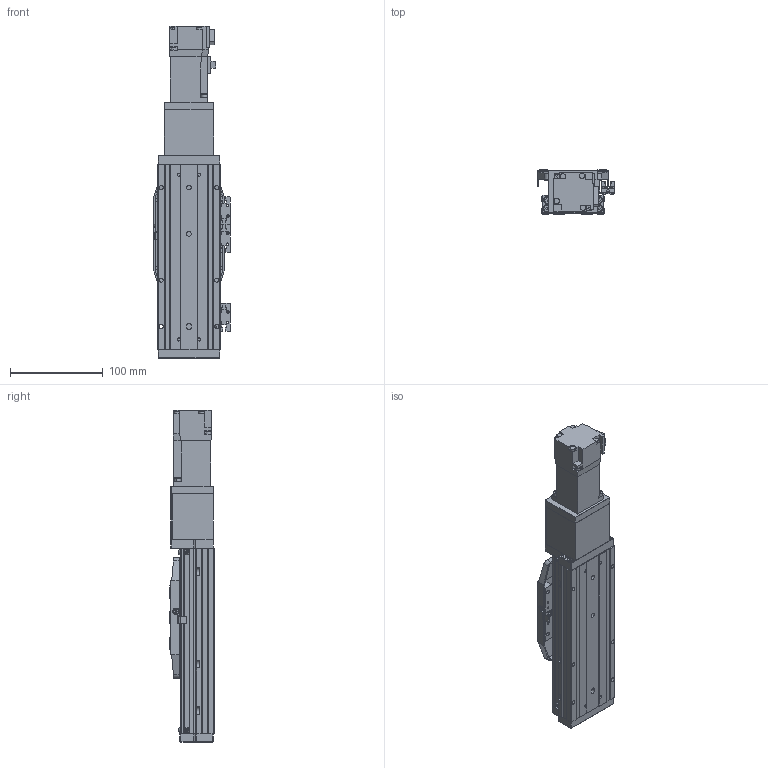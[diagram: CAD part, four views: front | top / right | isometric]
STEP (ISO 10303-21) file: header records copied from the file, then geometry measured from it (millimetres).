
FILE_DESCRIPTION (( 'STEP AP214' ), '1' );
FILE_NAME ('CTHA60-50-BC-M10-C4L.step', '2022-03-19T06:10:27', ( '微软用户' ), ( '微软中国' ), 'SwSTEP 2.0', 'SolidWorks 2020', '' );
FILE_SCHEMA (( 'AUTOMOTIVE_DESIGN' ));
Length unit declared in the file: millimetre
Products named in the file (19): GB¨uT 70.2-M3¡Á6_M3¡Á6; CTHA60-021; GBT 70.1-M3℅6; CTHA60-027; CTHA60-004; HG-KR13（三菱）; CTHA60-50-BC-M10-C4L; EE_SX911P_R; GBT 70.1-M4×16; GBT 70.3-M3℅6; CTHA60-013; CTHA60-002; CTHA60-005; CTHA60-017; CTHA60-031; GBT77-2000 M3×3; CTHA60-016; CTHA60-001_200; CTHA60-006
Assembly tree (57 placements, depth 2):
  CTHA60-50-BC-M10-C4L
    CTHA60-001_200
    CTHA60-004
    CTHA60-005
    GB¨uT 70.2-M3¡Á6_M3¡Á6  x10
    EE_SX911P_R  x3
    CTHA60-017  x3
    CTHA60-021  x2
    GBT 70.1-M4×16  x10
    GBT77-2000 M3×3  x6
    GBT 70.1-M3℅6  x6
    GBT 70.3-M3℅6  x6
    CTHA60-016  x2
    CTHA60-027
    CTHA60-013
    CTHA60-006
    HG-KR13（三菱）
    CTHA60-002
    CTHA60-031
Bounding box: 83.12 x 48 x 358.6 mm (x, y, z)
Volume: 683500.3 mm3; surface area: 198109.9 mm2
Topology: 59 solids, 59 shells, 2375 faces, 5629 edges, 3443 vertices
Faces by surface type: plane 1378, cylinder 525, cone 352, torus 96, sphere 24
Entity records: 36526 total; most frequent: CARTESIAN_POINT 6144, DIRECTION 6052, ORIENTED_EDGE 5838, EDGE_CURVE 2919, LINE 2148, VECTOR 2148, AXIS2_PLACEMENT_3D 1952, VERTEX_POINT 1840
